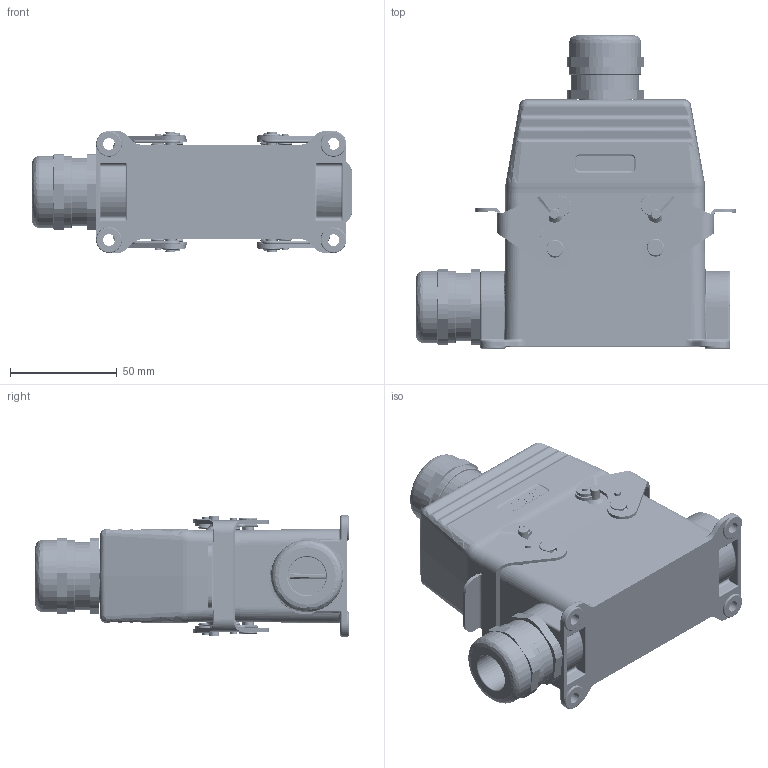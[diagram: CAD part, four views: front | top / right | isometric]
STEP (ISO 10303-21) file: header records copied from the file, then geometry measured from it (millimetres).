
FILE_DESCRIPTION (( 'STEP AP214' ), '1' );
FILE_NAME ('09016104225M HE、16针、表面底座、顶出25套件、配金属接头.STEP', '2024-04-28T03:04:21', ( 'L' ), ( '' ), 'SwSTEP 2.0', 'SolidWorks 2019', '' );
FILE_SCHEMA (( 'AUTOMOTIVE_DESIGN' ));
Length unit declared in the file: millimetre
Products named in the file (6): FAS-25-M.step; H16B-TG-M25.step; H16B-SGR-M25.step; 09016104225M HE、16针、表面底座、顶出25套件、配金属接头; HE-016-M.stp; HE-016-F.stp
Assembly tree (6 placements, depth 2):
  09016104225M HE、16针、表面底座、顶出25套件、配金属接头
    HE-016-M.stp
    HE-016-F.stp
    H16B-TG-M25.step
    FAS-25-M.step  x2
    H16B-SGR-M25.step
Bounding box: 149.69 x 146.6 x 57 mm (x, y, z)
Volume: 190847.6 mm3; surface area: 161449 mm2
Topology: 5 solids, 16 shells, 7573 faces, 20578 edges, 13062 vertices
Faces by surface type: plane 3390, bspline 1355, cylinder 1310, cone 1016, torus 424, sphere 78
Entity records: 310308 total; most frequent: CARTESIAN_POINT 113143, ORIENTED_EDGE 40410, DIRECTION 32168, EDGE_CURVE 20211, VERTEX_POINT 12942, AXIS2_PLACEMENT_3D 11066, VECTOR 10036, LINE 10036
